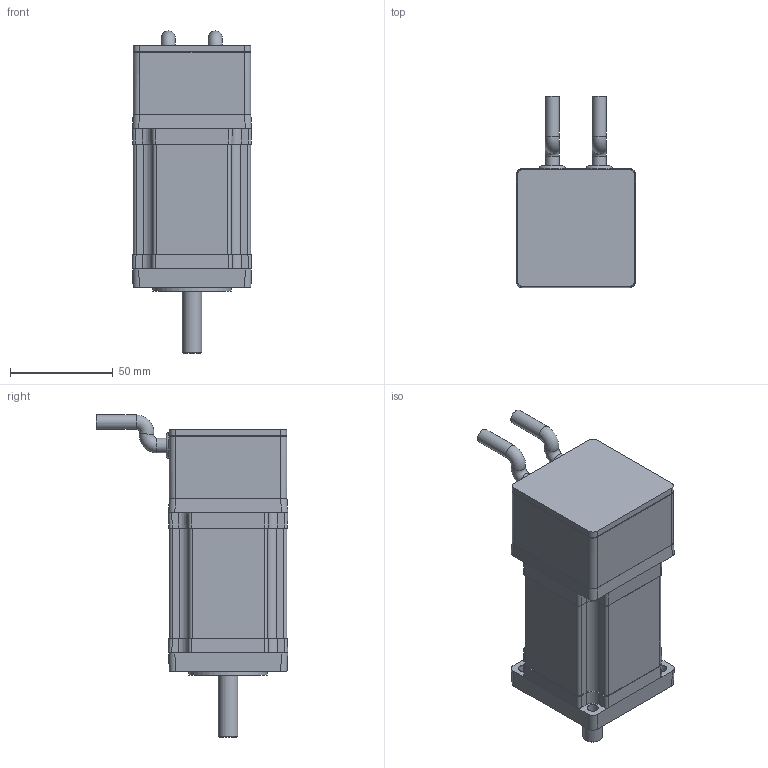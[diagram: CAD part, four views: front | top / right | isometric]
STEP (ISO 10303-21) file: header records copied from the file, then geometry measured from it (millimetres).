
FILE_DESCRIPTION((''),'2;1');
FILE_NAME('C:\CAD_work\Dummy_Modeling_Project_02-12-05\3D MODELS\BE232_CBL.stp','2005-12-20T15:22:34',('jevans'),(''),'Autodesk Inventor 10','Autodesk Inventor 10','');
FILE_SCHEMA(('AUTOMOTIVE_DESIGN { 1 0 10303 214 1 1 1 1 }'));
Length unit declared in the file: inch
Products named in the file (1): BE23_CBL
Bounding box: 57.95 x 93.11 x 156.7 mm (x, y, z)
Volume: 362831.6 mm3; surface area: 41776.1 mm2
Topology: 3 solids, 3 shells, 213 faces, 538 edges, 346 vertices
Faces by surface type: plane 106, cylinder 84, torus 9, cone 8, bspline 6
Full cylindrical faces by diameter (mm): 1.27 x2, 6.985 x4, 9.52 x1, 9.525 x1, 12.7 x2, 21.59 x1, 24.13 x1, 25.403 x1, 26 x1, 27.076 x1, 31.75 x3, 38.1 x1, 41.732 x1, 47.015 x1
Entity records: 6323 total; most frequent: CARTESIAN_POINT 1224, DIRECTION 1114, ORIENTED_EDGE 970, EDGE_CURVE 485, AXIS2_PLACEMENT_3D 421, VERTEX_POINT 333, EDGE_LOOP 282, VECTOR 272
